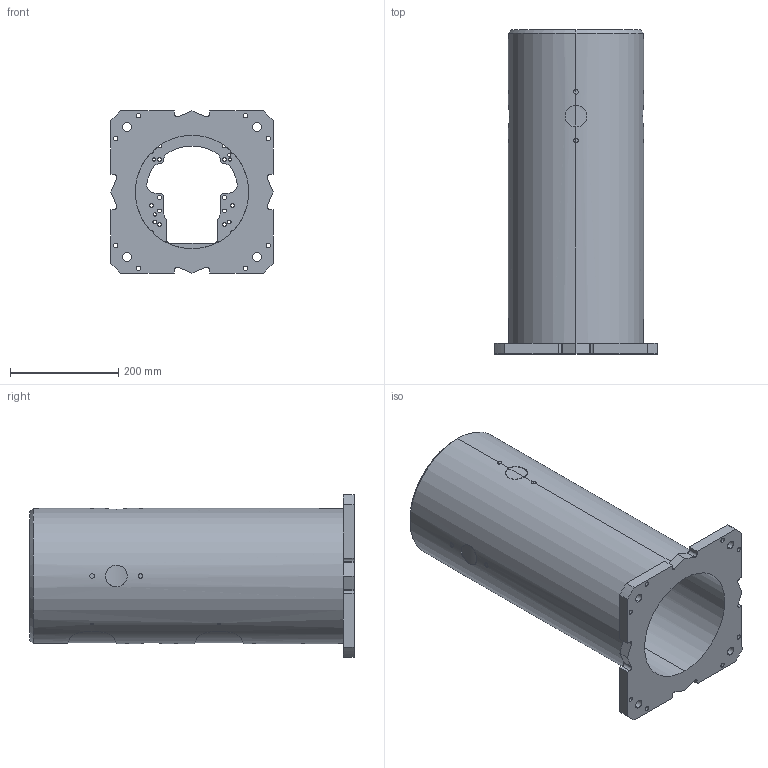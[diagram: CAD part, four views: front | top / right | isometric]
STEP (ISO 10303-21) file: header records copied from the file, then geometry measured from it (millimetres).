
FILE_DESCRIPTION (( 'STEP AP214' ), '1' );
FILE_NAME ('A-600.STEP', '2025-09-19T11:18:58', ( '' ), ( '' ), 'SwSTEP 2.0', 'SolidWorks 2022', '' );
FILE_SCHEMA (( 'AUTOMOTIVE_DESIGN' ));
Length unit declared in the file: millimetre
Products named in the file (1): A-600
Bounding box: 300 x 600 x 300 mm (x, y, z)
Volume: 9613573.1 mm3; surface area: 1021933.9 mm2
Topology: 1 solids, 1 shells, 236 faces, 656 edges, 426 vertices
Faces by surface type: cylinder 167, plane 43, bspline 24, cone 2
Entity records: 15702 total; most frequent: CARTESIAN_POINT 8275, ORIENTED_EDGE 1312, DIRECTION 1210, EDGE_CURVE 656, AXIS2_PLACEMENT_3D 479, VERTEX_POINT 426, EDGE_LOOP 314, CIRCLE 266
